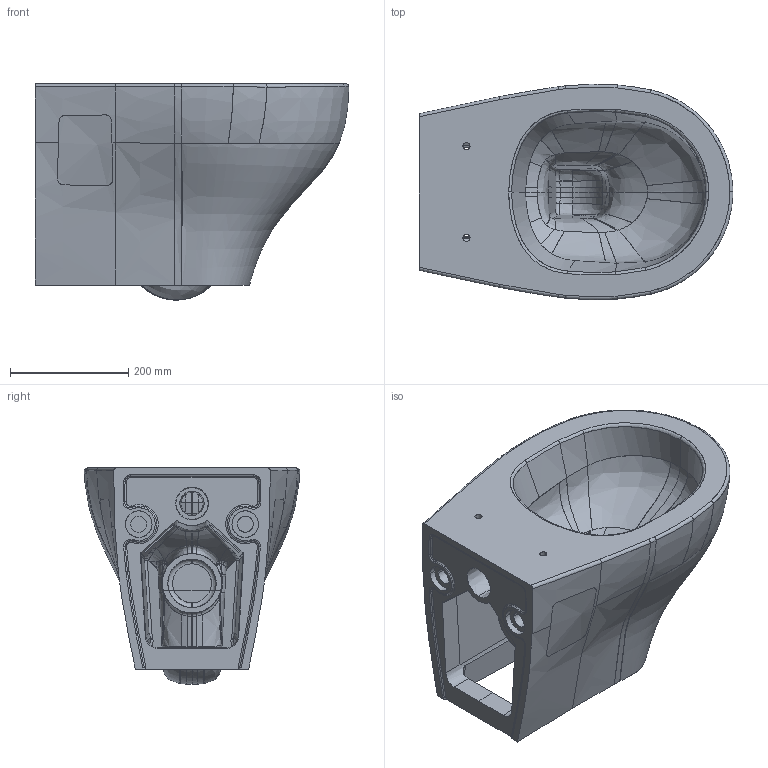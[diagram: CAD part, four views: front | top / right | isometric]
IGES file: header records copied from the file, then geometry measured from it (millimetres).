
Start section: START RECORD GO HERE.
Global section: file name: 7212.igs; native system: DASSAULT SYSTEMES CATIA V5 R19 - www.3ds.com; preprocessor: CATIA Version 5 Release 19 SP 5 ; author: gioge; organization: LAPTOP-G94B6G74; date: 20201002.165459; units: millimetre
Bounding box: 530.05 x 364.17 x 365.28 mm (x, y, z)
Surface area: 1135906.5 mm2 (no closed solid volume)
Topology: 0 solids, 0 shells, 415 faces, 2709 edges, 2690 vertices
Faces by surface type: bspline 324, revolution 58, plane 25, extrusion 8
